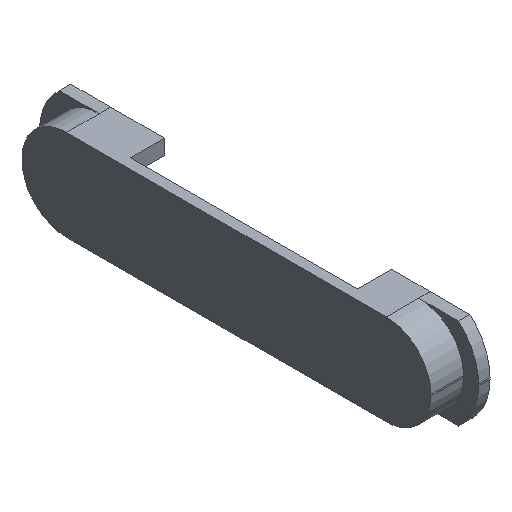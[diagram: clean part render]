
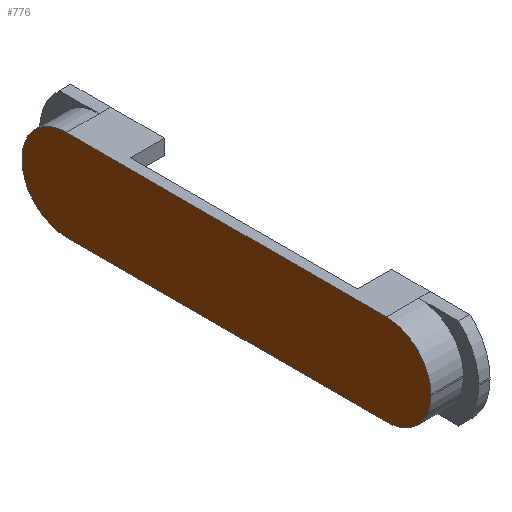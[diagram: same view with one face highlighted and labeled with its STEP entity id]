
A CAD part, isometric view. The second image highlights one B-rep face of the part: STEP entity #776.
In plain terms, the highlighted planar face has unit normal (-1, 0, 0).
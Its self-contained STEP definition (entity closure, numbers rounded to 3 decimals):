
#100=LINE('',#1290,#184);
#101=LINE('',#1294,#185);
#102=LINE('',#1298,#186);
#103=LINE('',#1301,#187);
#184=VECTOR('',#1058,10.);
#185=VECTOR('',#1061,10.);
#186=VECTOR('',#1064,10.);
#187=VECTOR('',#1067,10.);
#219=PLANE('',#856);
#258=FACE_OUTER_BOUND('',#300,.T.);
#300=EDGE_LOOP('',(#679,#680,#681,#682,#683,#684,#685,#686));
#333=CIRCLE('',#855,5.9);
#334=CIRCLE('',#857,5.9);
#335=CIRCLE('',#858,5.9);
#336=CIRCLE('',#859,5.9);
#401=VERTEX_POINT('',#1283);
#402=VERTEX_POINT('',#1285);
#403=VERTEX_POINT('',#1289);
#404=VERTEX_POINT('',#1291);
#405=VERTEX_POINT('',#1293);
#406=VERTEX_POINT('',#1295);
#407=VERTEX_POINT('',#1297);
#408=VERTEX_POINT('',#1299);
#504=EDGE_CURVE('',#401,#402,#333,.T.);
#505=EDGE_CURVE('',#402,#403,#100,.T.);
#506=EDGE_CURVE('',#403,#404,#334,.T.);
#507=EDGE_CURVE('',#405,#404,#101,.T.);
#508=EDGE_CURVE('',#405,#406,#335,.T.);
#509=EDGE_CURVE('',#407,#406,#102,.T.);
#510=EDGE_CURVE('',#407,#408,#336,.T.);
#511=EDGE_CURVE('',#401,#408,#103,.T.);
#679=ORIENTED_EDGE('',*,*,#504,.T.);
#680=ORIENTED_EDGE('',*,*,#505,.T.);
#681=ORIENTED_EDGE('',*,*,#506,.T.);
#682=ORIENTED_EDGE('',*,*,#507,.F.);
#683=ORIENTED_EDGE('',*,*,#508,.T.);
#684=ORIENTED_EDGE('',*,*,#509,.F.);
#685=ORIENTED_EDGE('',*,*,#510,.T.);
#686=ORIENTED_EDGE('',*,*,#511,.F.);
#776=ADVANCED_FACE('',(#258),#219,.F.);
#855=AXIS2_PLACEMENT_3D('',#1287,#1054,#1055);
#856=AXIS2_PLACEMENT_3D('',#1288,#1056,#1057);
#857=AXIS2_PLACEMENT_3D('',#1292,#1059,#1060);
#858=AXIS2_PLACEMENT_3D('',#1296,#1062,#1063);
#859=AXIS2_PLACEMENT_3D('',#1300,#1065,#1066);
#1054=DIRECTION('center_axis',(-1.,0.,0.));
#1055=DIRECTION('ref_axis',(0.,0.,-1.));
#1056=DIRECTION('center_axis',(1.,0.,0.));
#1057=DIRECTION('ref_axis',(0.,0.,-1.));
#1058=DIRECTION('',(0.,0.,-1.));
#1059=DIRECTION('center_axis',(-1.,0.,0.));
#1060=DIRECTION('ref_axis',(0.,0.,-1.));
#1061=DIRECTION('',(0.,1.,0.));
#1062=DIRECTION('center_axis',(-1.,0.,0.));
#1063=DIRECTION('ref_axis',(0.,0.,-1.));
#1064=DIRECTION('',(0.,0.,-1.));
#1065=DIRECTION('center_axis',(-1.,0.,0.));
#1066=DIRECTION('ref_axis',(0.,0.,-1.));
#1067=DIRECTION('',(0.,-1.,0.));
#1283=CARTESIAN_POINT('',(-41.9,28.1,-6.));
#1285=CARTESIAN_POINT('',(-41.9,34.,-11.9));
#1287=CARTESIAN_POINT('Origin',(-41.9,28.1,-11.9));
#1288=CARTESIAN_POINT('Origin',(-41.9,7.,-12.));
#1289=CARTESIAN_POINT('',(-41.9,34.,-12.1));
#1290=CARTESIAN_POINT('',(-41.9,34.,-12.));
#1291=CARTESIAN_POINT('',(-41.9,28.1,-18.));
#1292=CARTESIAN_POINT('Origin',(-41.9,28.1,-12.1));
#1293=CARTESIAN_POINT('',(-41.9,-14.1,-18.));
#1294=CARTESIAN_POINT('',(-41.9,7.,-18.));
#1295=CARTESIAN_POINT('',(-41.9,-20.,-12.1));
#1296=CARTESIAN_POINT('Origin',(-41.9,-14.1,-12.1));
#1297=CARTESIAN_POINT('',(-41.9,-20.,-11.9));
#1298=CARTESIAN_POINT('',(-41.9,-20.,-12.));
#1299=CARTESIAN_POINT('',(-41.9,-14.1,-6.));
#1300=CARTESIAN_POINT('Origin',(-41.9,-14.1,-11.9));
#1301=CARTESIAN_POINT('',(-41.9,7.,-6.));
